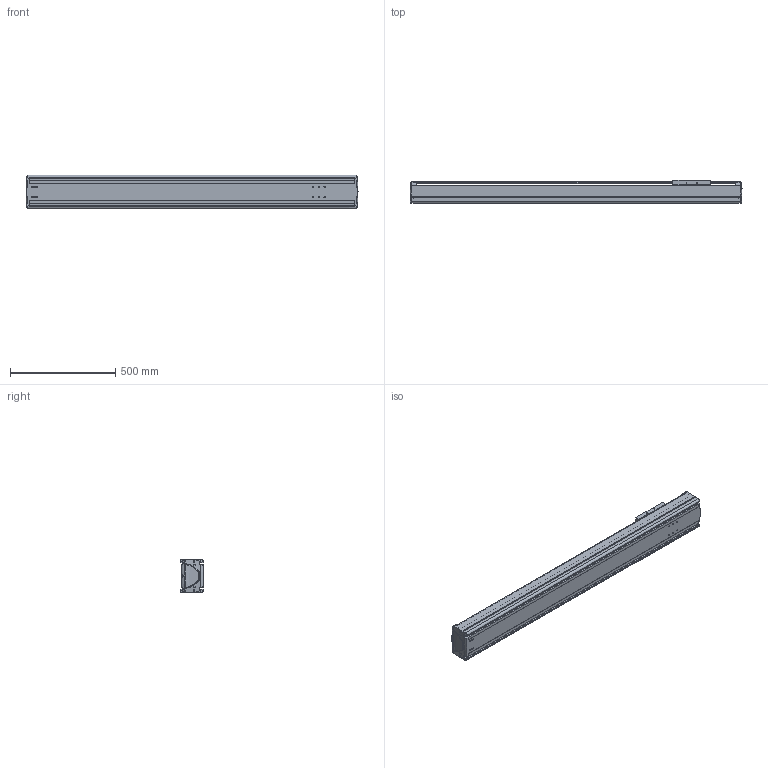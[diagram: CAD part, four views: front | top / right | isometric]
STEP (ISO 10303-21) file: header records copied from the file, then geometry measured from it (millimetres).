
FILE_DESCRIPTION((''),'2;1');
FILE_NAME('BE50G-ST-M_N-C0_IGS_PRT','2017-06-18T',(' '),(''),'PRO/ENGINEER BY PARAMETRIC TECHNOLOGY CORPORATION, 2015030','PRO/ENGINEER BY PARAMETRIC TECHNOLOGY CORPORATION, 2015030','');
FILE_SCHEMA(('CONFIG_CONTROL_DESIGN'));
Length unit declared in the file: millimetre
Products named in the file (1): BE50G-ST-M_N-C0_IGS_PRT
Bounding box: 1579.98 x 110 x 160 mm (x, y, z)
Volume: 6907905 mm3; surface area: 2372547.9 mm2
Topology: 2 solids, 95 shells, 1692 faces, 4500 edges, 2887 vertices
Faces by surface type: cylinder 752, plane 633, bspline 102, torus 87, cone 78, sphere 40
Entity records: 58321 total; most frequent: CARTESIAN_POINT 16768, ORIENTED_EDGE 8568, DIRECTION 8476, EDGE_CURVE 4470, AXIS2_PLACEMENT_3D 3172, VERTEX_POINT 2879, VECTOR 2132, LINE 2132
